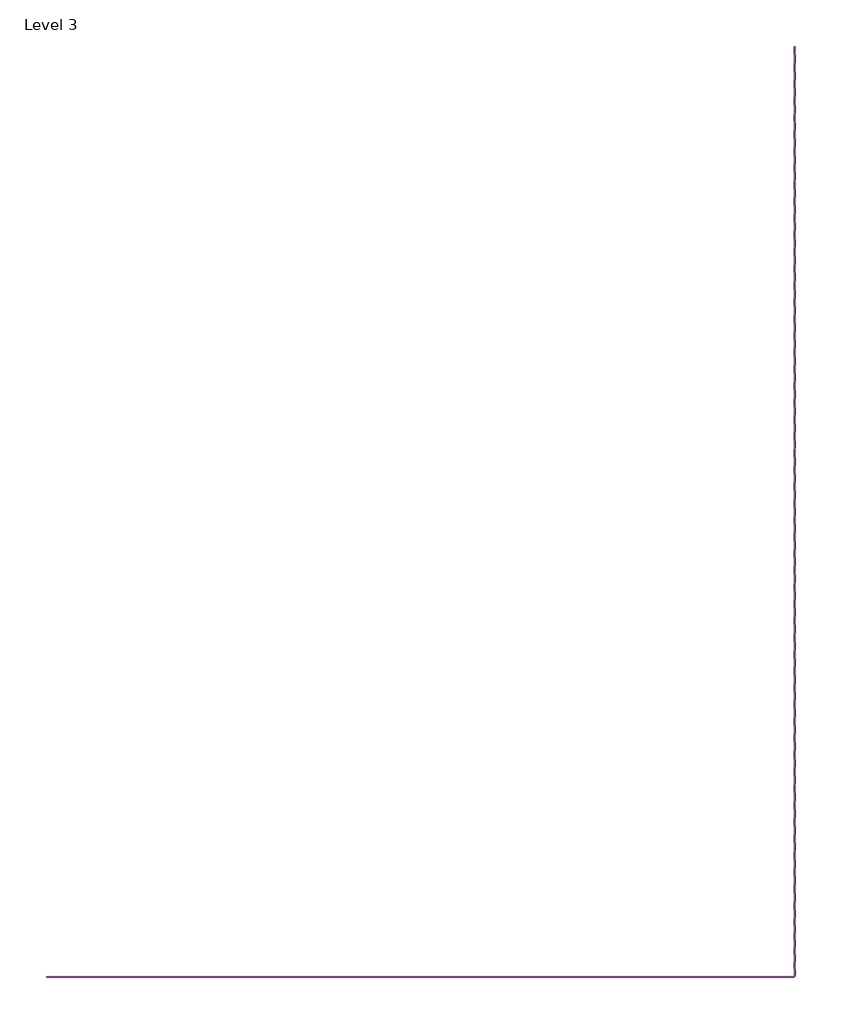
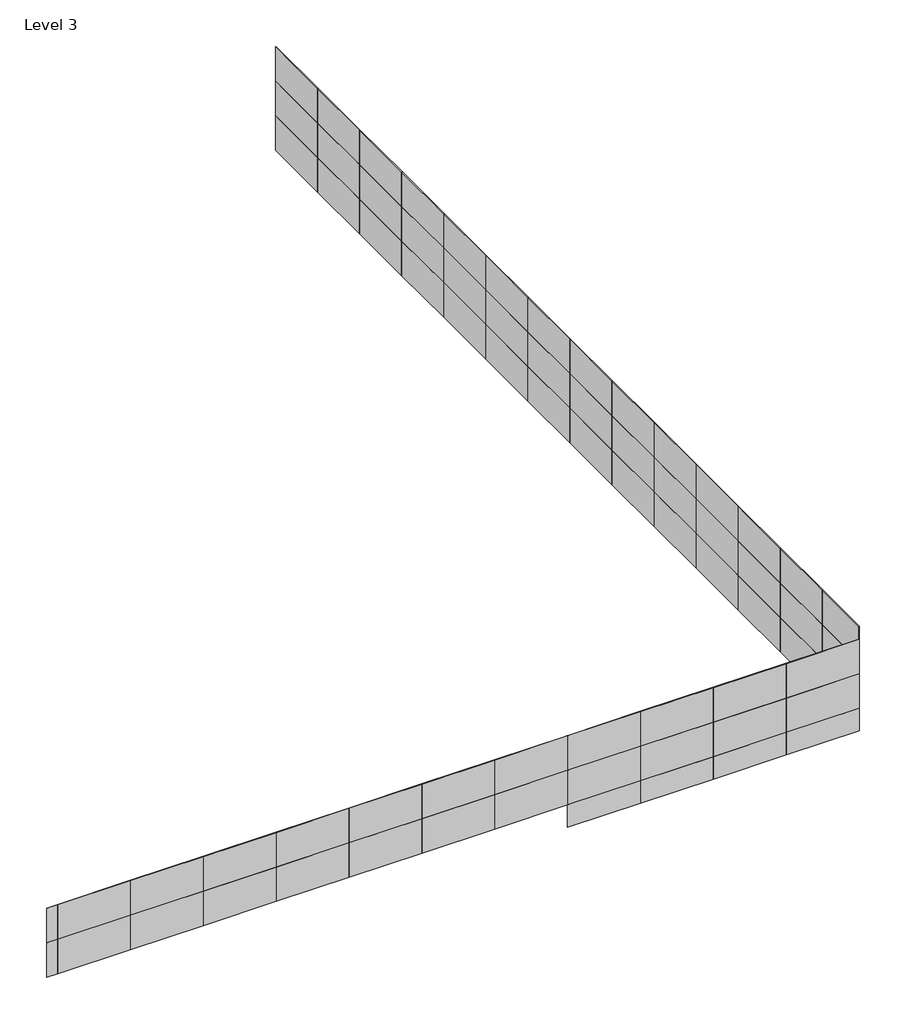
# One storey: 70 plates.
"""IFC4 building model written with IfcOpenShell, lengths in millimetres."""

import ifcopenshell
import ifcopenshell.guid

model = None  # the IFC model being written
_history = None  # IfcOwnerHistory: only IFC2X3 demands one
_inside = {}  # id of a spatial element -> (the spatial element, [elements in it])
_under = {}  # id of a project, library or spatial element -> (it, [spatial elements below it])
_declared = {}  # id of a project -> (the project, [libraries it declares])
_typed = {}  # id of a type object -> (the type object, [elements of that type])
_made_of = {}  # id of a material, layer set ... -> (it, [elements and type objects made of it])


def new_model(schema):
    """Start an empty IFC model of exactly this schema.

    Asked for "IFC4X3", IfcOpenShell would pick the latest addendum, in which some entities
    have other attributes; the version numbers below select the first issue.
    IFC2X3 requires an IfcOwnerHistory on every rooted entity: one is made here for all.
    """
    global model, _history
    if schema == "IFC4X3":
        model = ifcopenshell.file(schema_version=(4, 3, 0, 0))
    else:
        model = ifcopenshell.file(schema=schema)
    _inside.clear()
    _under.clear()
    _declared.clear()
    _typed.clear()
    _made_of.clear()
    _history = None
    if model.schema == "IFC2X3":
        org = make("IfcOrganization", Name="unknown")
        user = make(
            "IfcPersonAndOrganization",
            ThePerson=make("IfcPerson", FamilyName="unknown"),
            TheOrganization=org,
        )
        app = make(
            "IfcApplication",
            ApplicationDeveloper=org,
            Version="unknown",
            ApplicationFullName="unknown",
            ApplicationIdentifier="unknown",
        )
        _history = make(
            "IfcOwnerHistory",
            OwningUser=user,
            OwningApplication=app,
            ChangeAction="ADDED",
            CreationDate=0,
        )
    return model


def make(cls, **values):
    """One entity of the class cls with the attributes given. An attribute that is None is left unset."""
    return model.create_entity(
        cls, **{name: value for name, value in values.items() if value is not None}
    )


def rooted(cls, **values):
    """An entity with a GlobalId (a new one), such as an element, a storey or a relation."""
    return make(cls, GlobalId=ifcopenshell.guid.new(), OwnerHistory=_history, **values)


def si_unit(unit_type, name, prefix=None):
    """IfcSIUnit, for example si_unit("LENGTHUNIT", "METRE", prefix="MILLI")."""
    return make("IfcSIUnit", UnitType=unit_type, Prefix=prefix, Name=name)


def assignment(units):
    """IfcUnitAssignment: the units of a project."""
    return None if units is None else make("IfcUnitAssignment", Units=units)


def point(xyz):
    """IfcCartesianPoint."""
    return None if xyz is None else make("IfcCartesianPoint", Coordinates=xyz)


def direction(xyz):
    """IfcDirection."""
    return None if xyz is None else make("IfcDirection", DirectionRatios=xyz)


def frame(location, z_axis=None, x_axis=None):
    """IfcAxis2Placement3D, a coordinate frame: its origin and axes. An axis left out is left unset."""
    return make(
        "IfcAxis2Placement3D",
        Location=point(location),
        Axis=direction(z_axis),
        RefDirection=direction(x_axis),
    )


def origin():
    """The frame at (0, 0, 0) with its axes left unset."""
    return frame((0.0, 0.0, 0.0))


def origin_with_axes():
    """The frame at (0, 0, 0) with the z axis (0, 0, 1) and the x axis (1, 0, 0) written out."""
    return frame((0.0, 0.0, 0.0), z_axis=(0.0, 0.0, 1.0), x_axis=(1.0, 0.0, 0.0))


def place(relative_to, where):
    """IfcLocalPlacement: puts the frame where relative to a parent placement (None: the world)."""
    return make(
        "IfcLocalPlacement", PlacementRelTo=relative_to, RelativePlacement=where
    )


def context(
    kind, dimensions, precision=None, world=None, true_north=None, identifier=None
):
    """IfcGeometricRepresentationContext, for example the 3D "Model" context."""
    return make(
        "IfcGeometricRepresentationContext",
        ContextIdentifier=identifier,
        ContextType=kind,
        CoordinateSpaceDimension=dimensions,
        Precision=precision,
        WorldCoordinateSystem=world,
        TrueNorth=true_north,
    )


def project(units=None, contexts=None):
    """IfcProject with its units and contexts."""
    return rooted(
        "IfcProject",
        Name="project",
        RepresentationContexts=contexts,
        UnitsInContext=assignment(units),
    )


def spatial(cls, under=None, at=None, **own):
    """A site, building, storey or space (cls), placed at a placement, below another one or the project."""
    s = rooted(cls, ObjectPlacement=at, **own)
    if under is not None:
        _under.setdefault(under.id(), (under, []))[1].append(s)
    return s


def polyline(points):
    """IfcPolyline through the points."""
    return make("IfcPolyline", Points=[point(p) for p in points])


def outline(outer, holes=None, kind="AREA"):
    """IfcArbitraryClosedProfileDef: a profile drawn as a closed curve; with holes, ...WithVoids."""
    if holes is None:
        return make("IfcArbitraryClosedProfileDef", ProfileType=kind, OuterCurve=outer)
    return make(
        "IfcArbitraryProfileDefWithVoids",
        ProfileType=kind,
        OuterCurve=outer,
        InnerCurves=holes,
    )


def extrude(swept, where, along, depth):
    """IfcExtrudedAreaSolid: the profile swept, set in the frame where, extruded along a direction by depth."""
    return make(
        "IfcExtrudedAreaSolid",
        SweptArea=swept,
        Position=where,
        ExtrudedDirection=direction(along),
        Depth=depth,
    )


def shape(context_of_items, identifier, shape_type, items):
    """IfcShapeRepresentation: the items that make up one representation, for example the "Body"."""
    return make(
        "IfcShapeRepresentation",
        ContextOfItems=context_of_items,
        RepresentationIdentifier=identifier,
        RepresentationType=shape_type,
        Items=items,
    )


def source(mapping_origin, context_of_items, identifier, shape_type, items):
    """IfcRepresentationMap: a shape defined once, which mapped items show again and again."""
    return make(
        "IfcRepresentationMap",
        MappingOrigin=mapping_origin,
        MappedRepresentation=shape(context_of_items, identifier, shape_type, items),
    )


def transform(
    local_origin,
    x_axis=None,
    y_axis=None,
    z_axis=None,
    scale=None,
    scale2=None,
    scale3=None,
    uniform=True,
):
    """IfcCartesianTransformationOperator3D, or its non-uniform kind. x_axis, y_axis, z_axis: its Axis1, 2, 3."""
    if uniform:
        return make(
            "IfcCartesianTransformationOperator3D",
            Axis1=direction(x_axis),
            Axis2=direction(y_axis),
            LocalOrigin=point(local_origin),
            Scale=scale,
            Axis3=direction(z_axis),
        )
    return make(
        "IfcCartesianTransformationOperator3DnonUniform",
        Axis1=direction(x_axis),
        Axis2=direction(y_axis),
        LocalOrigin=point(local_origin),
        Scale=scale,
        Axis3=direction(z_axis),
        Scale2=scale2,
        Scale3=scale3,
    )


def mapped(mapping_source, mapping_target):
    """IfcMappedItem: shows the shape of a source again, moved by a transform."""
    return make(
        "IfcMappedItem", MappingSource=mapping_source, MappingTarget=mapping_target
    )


def made_of(thing, what):
    """Note that an element or type object is made of a material, layer set ...; save() writes the relation."""
    if what is not None:
        _made_of.setdefault(what.id(), (what, []))[1].append(thing)
    return thing


def element(
    cls,
    number,
    at=None,
    inside=None,
    cuts=None,
    type_object=None,
    material=None,
    context=None,
    identifier="Body",
    shape_type=None,
    held_by="IfcProductDefinitionShape",
    body=None,
    shapes=None,
    **own,
):
    """One element of the class cls, such as IfcWall. Its Tag is "e" and its number.

    at: its placement. inside: the storey or other place that contains it. cuts: it is an
    opening in that element (IfcRelVoidsElement). A single representation is given by context,
    identifier, shape_type and body (its items); several are given by shapes. held_by: the class
    of the entity that holds the representations. save() writes the other relations.
    """
    e = rooted(cls, Tag="e%d" % number, ObjectPlacement=at, **own)
    if body is not None:
        shapes = [shape(context, identifier, shape_type, body)]
    if shapes is not None:
        e.Representation = make(held_by, Representations=shapes)
    if inside is not None:
        _inside.setdefault(inside.id(), (inside, []))[1].append(e)
    if cuts is not None:
        rooted(
            "IfcRelVoidsElement", RelatingBuildingElement=cuts, RelatedOpeningElement=e
        )
    if type_object is not None:
        _typed.setdefault(type_object.id(), (type_object, []))[1].append(e)
    return made_of(e, material)


def aggregate(whole, parts):
    """IfcRelAggregates: a whole, such as a stair, and the parts it consists of."""
    return rooted("IfcRelAggregates", RelatingObject=whole, RelatedObjects=parts)


def save(model, path):
    """Write the relations noted so far, then the file.

    IfcRelAggregates (storeys below a building ...), IfcRelContainedInSpatialStructure (elements
    in a storey), IfcRelDefinesByType, IfcRelAssociatesMaterial and IfcRelDeclares: one each for
    every whole, place, type object, material and project.
    """
    for whole, parts in _under.values():
        aggregate(whole, parts)
    for where, things in _inside.values():
        rooted(
            "IfcRelContainedInSpatialStructure",
            RelatedElements=things,
            RelatingStructure=where,
        )
    for kind, things in _typed.values():
        rooted("IfcRelDefinesByType", RelatedObjects=things, RelatingType=kind)
    for what, things in _made_of.values():
        rooted("IfcRelAssociatesMaterial", RelatedObjects=things, RelatingMaterial=what)
    for by, libraries in _declared.values():
        rooted("IfcRelDeclares", RelatingContext=by, RelatedDefinitions=libraries)
    model.write(path)


def system_panel_glazed_0faff7bc(model_context):
    return source(origin(), model_context, "Body", "SweptSolid", [
        extrude(outline(polyline([(1524.0, 19.05), (-1524.0, 19.05), (-1524.0, 44.45), (1524.0, 44.45), (1524.0, 19.05)])), origin_with_axes(), (0.0, 0.0, 1.0), 1524.0),
    ])


def system_panel_glazed_3beef6a9(model_context):
    return source(origin(), model_context, "Body", "SweptSolid", [
        extrude(outline(polyline([(222.6119514, 19.05), (-222.6119514, 19.05), (-222.6119514, 44.45), (222.6119514, 44.45), (222.6119514, 19.05)])), origin_with_axes(), (0.0, 0.0, 1.0), 1524.0),
    ])


def system_panel_glazed_005117af(model_context):
    return source(origin(), model_context, "Body", "SweptSolid", [
        extrude(outline(polyline([(1524.0, 19.05), (-1524.0, 19.05), (-1524.0, 44.45), (1524.0, 44.45), (1524.0, 19.05)])), origin_with_axes(), (0.0, 0.0, 1.0), 990.9101454),
    ])


def system_panel_glazed_27cb410f(model_context):
    return source(origin(), model_context, "Body", "SweptSolid", [
        extrude(outline(polyline([(1319.7377931, 19.05), (-1319.7377931, 19.05), (-1319.7377931, 44.45), (1319.7377931, 44.45), (1319.7377931, 19.05)])), origin_with_axes(), (0.0, 0.0, 1.0), 1524.0),
    ])


model = new_model("IFC4")

# Units and contexts
model_context = context("Model", 3, world=origin())
ifc_project = project(units=[si_unit("LENGTHUNIT", "METRE", prefix="MILLI")], contexts=[model_context])

# Site, building, storey
site = spatial("IfcSite", under=ifc_project)
building = spatial("IfcBuilding", under=site)
storey = spatial("IfcBuildingStorey", under=building, Name="Level 3", Elevation=6705.6)

# Plates
placement = place(None, origin())
system_panel_glazed_shape = system_panel_glazed_0faff7bc(model_context)
element("IfcPlate", 1, ObjectType="System Panel : Glazed", at=placement, inside=storey, context=model_context, shape_type="MappedRepresentation", body=[
    mapped(system_panel_glazed_shape, transform((14868.0832196, -17542.9691989, 7708.4959124), x_axis=(-1.0, 0.0, 0.0), y_axis=(0.0, -1.0, 0.0), z_axis=(0.0, 0.0, 1.0))),
])
element("IfcPlate", 2, ObjectType="System Panel : Glazed", at=placement, inside=storey, context=model_context, shape_type="MappedRepresentation", body=[
    mapped(system_panel_glazed_shape, transform((11820.0832196, -17542.9691989, 7708.4959124), x_axis=(-1.0, 0.0, 0.0), y_axis=(0.0, -1.0, 0.0), z_axis=(0.0, 0.0, 1.0))),
])
element("IfcPlate", 3, ObjectType="System Panel : Glazed", at=placement, inside=storey, context=model_context, shape_type="MappedRepresentation", body=[
    mapped(system_panel_glazed_shape, transform((8772.0832196, -17542.9691989, 7708.4959124), x_axis=(-1.0, 0.0, 0.0), y_axis=(0.0, -1.0, 0.0), z_axis=(0.0, 0.0, 1.0))),
])
element("IfcPlate", 4, ObjectType="System Panel : Glazed", at=placement, inside=storey, context=model_context, shape_type="MappedRepresentation", body=[
    mapped(system_panel_glazed_shape, transform((5724.0832196, -17542.9691989, 7708.4959124), x_axis=(-1.0, 0.0, 0.0), y_axis=(0.0, -1.0, 0.0), z_axis=(0.0, 0.0, 1.0))),
])
element("IfcPlate", 5, ObjectType="System Panel : Glazed", at=placement, inside=storey, context=model_context, shape_type="MappedRepresentation", body=[
    mapped(system_panel_glazed_shape, transform((2676.0832196, -17542.9691989, 7708.4959124), x_axis=(-1.0, 0.0, 0.0), y_axis=(0.0, -1.0, 0.0), z_axis=(0.0, 0.0, 1.0))),
])
element("IfcPlate", 6, ObjectType="System Panel : Glazed", at=placement, inside=storey, context=model_context, shape_type="MappedRepresentation", body=[
    mapped(system_panel_glazed_shape, transform((-371.9167804, -17542.9691989, 7708.4959124), x_axis=(-1.0, 0.0, 0.0), y_axis=(0.0, -1.0, 0.0), z_axis=(0.0, 0.0, 1.0))),
])
element("IfcPlate", 7, ObjectType="System Panel : Glazed", at=placement, inside=storey, context=model_context, shape_type="MappedRepresentation", body=[
    mapped(system_panel_glazed_shape, transform((-3419.9167804, -17542.9691989, 7708.4959124), x_axis=(-1.0, 0.0, 0.0), y_axis=(0.0, -1.0, 0.0), z_axis=(0.0, 0.0, 1.0))),
])
element("IfcPlate", 8, ObjectType="System Panel : Glazed", at=placement, inside=storey, context=model_context, shape_type="MappedRepresentation", body=[
    mapped(system_panel_glazed_shape, transform((-6467.9167804, -17542.9691989, 7708.4959124), x_axis=(-1.0, 0.0, 0.0), y_axis=(0.0, -1.0, 0.0), z_axis=(0.0, 0.0, 1.0))),
])
element("IfcPlate", 9, ObjectType="System Panel : Glazed", at=placement, inside=storey, context=model_context, shape_type="MappedRepresentation", body=[
    mapped(system_panel_glazed_shape, transform((-9515.9167804, -17542.9691989, 7708.4959124), x_axis=(-1.0, 0.0, 0.0), y_axis=(0.0, -1.0, 0.0), z_axis=(0.0, 0.0, 1.0))),
])
element("IfcPlate", 10, ObjectType="System Panel : Glazed", at=placement, inside=storey, context=model_context, shape_type="MappedRepresentation", body=[
    mapped(system_panel_glazed_shape, transform((-12563.9167804, -17542.9691989, 7708.4959124), x_axis=(-1.0, 0.0, 0.0), y_axis=(0.0, -1.0, 0.0), z_axis=(0.0, 0.0, 1.0))),
])
element("IfcPlate", 11, ObjectType="System Panel : Glazed", at=placement, inside=storey, context=model_context, shape_type="MappedRepresentation", body=[
    mapped(system_panel_glazed_shape, transform((-15611.9167804, -17542.9691989, 7708.4959124), x_axis=(-1.0, 0.0, 0.0), y_axis=(0.0, -1.0, 0.0), z_axis=(0.0, 0.0, 1.0))),
])
element("IfcPlate", 12, ObjectType="System Panel : Glazed", at=placement, inside=storey, context=model_context, shape_type="MappedRepresentation", body=[
    mapped(system_panel_glazed_shape, transform((14868.0832196, -17542.9691989, 9232.4959124), x_axis=(-1.0, 0.0, 0.0), y_axis=(0.0, -1.0, 0.0), z_axis=(0.0, 0.0, 1.0))),
])
element("IfcPlate", 13, ObjectType="System Panel : Glazed", at=placement, inside=storey, context=model_context, shape_type="MappedRepresentation", body=[
    mapped(system_panel_glazed_shape, transform((11820.0832196, -17542.9691989, 9232.4959124), x_axis=(-1.0, 0.0, 0.0), y_axis=(0.0, -1.0, 0.0), z_axis=(0.0, 0.0, 1.0))),
])
element("IfcPlate", 14, ObjectType="System Panel : Glazed", at=placement, inside=storey, context=model_context, shape_type="MappedRepresentation", body=[
    mapped(system_panel_glazed_shape, transform((8772.0832196, -17542.9691989, 9232.4959124), x_axis=(-1.0, 0.0, 0.0), y_axis=(0.0, -1.0, 0.0), z_axis=(0.0, 0.0, 1.0))),
])
element("IfcPlate", 15, ObjectType="System Panel : Glazed", at=placement, inside=storey, context=model_context, shape_type="MappedRepresentation", body=[
    mapped(system_panel_glazed_shape, transform((5724.0832196, -17542.9691989, 9232.4959124), x_axis=(-1.0, 0.0, 0.0), y_axis=(0.0, -1.0, 0.0), z_axis=(0.0, 0.0, 1.0))),
])
element("IfcPlate", 16, ObjectType="System Panel : Glazed", at=placement, inside=storey, context=model_context, shape_type="MappedRepresentation", body=[
    mapped(system_panel_glazed_shape, transform((2676.0832196, -17542.9691989, 9232.4959124), x_axis=(-1.0, 0.0, 0.0), y_axis=(0.0, -1.0, 0.0), z_axis=(0.0, 0.0, 1.0))),
])
element("IfcPlate", 17, ObjectType="System Panel : Glazed", at=placement, inside=storey, context=model_context, shape_type="MappedRepresentation", body=[
    mapped(system_panel_glazed_shape, transform((-371.9167804, -17542.9691989, 9232.4959124), x_axis=(-1.0, 0.0, 0.0), y_axis=(0.0, -1.0, 0.0), z_axis=(0.0, 0.0, 1.0))),
])
element("IfcPlate", 18, ObjectType="System Panel : Glazed", at=placement, inside=storey, context=model_context, shape_type="MappedRepresentation", body=[
    mapped(system_panel_glazed_shape, transform((-3419.9167804, -17542.9691989, 9232.4959124), x_axis=(-1.0, 0.0, 0.0), y_axis=(0.0, -1.0, 0.0), z_axis=(0.0, 0.0, 1.0))),
])
element("IfcPlate", 19, ObjectType="System Panel : Glazed", at=placement, inside=storey, context=model_context, shape_type="MappedRepresentation", body=[
    mapped(system_panel_glazed_shape, transform((-6467.9167804, -17542.9691989, 9232.4959124), x_axis=(-1.0, 0.0, 0.0), y_axis=(0.0, -1.0, 0.0), z_axis=(0.0, 0.0, 1.0))),
])
element("IfcPlate", 20, ObjectType="System Panel : Glazed", at=placement, inside=storey, context=model_context, shape_type="MappedRepresentation", body=[
    mapped(system_panel_glazed_shape, transform((-9515.9167804, -17542.9691989, 9232.4959124), x_axis=(-1.0, 0.0, 0.0), y_axis=(0.0, -1.0, 0.0), z_axis=(0.0, 0.0, 1.0))),
])
element("IfcPlate", 21, ObjectType="System Panel : Glazed", at=placement, inside=storey, context=model_context, shape_type="MappedRepresentation", body=[
    mapped(system_panel_glazed_shape, transform((-12563.9167804, -17542.9691989, 9232.4959124), x_axis=(-1.0, 0.0, 0.0), y_axis=(0.0, -1.0, 0.0), z_axis=(0.0, 0.0, 1.0))),
])
element("IfcPlate", 22, ObjectType="System Panel : Glazed", at=placement, inside=storey, context=model_context, shape_type="MappedRepresentation", body=[
    mapped(system_panel_glazed_shape, transform((-15611.9167804, -17542.9691989, 9232.4959124), x_axis=(-1.0, 0.0, 0.0), y_axis=(0.0, -1.0, 0.0), z_axis=(0.0, 0.0, 1.0))),
])
element("IfcPlate", 23, ObjectType="System Panel : Glazed", at=placement, inside=storey, context=model_context, shape_type="MappedRepresentation", body=[
    mapped(system_panel_glazed_shape, transform((16392.0832196, 23196.5063873, 6717.585767), x_axis=(0.0, -1.0, 0.0), y_axis=(1.0, 0.0, 0.0), z_axis=(0.0, 0.0, 1.0))),
])
element("IfcPlate", 24, ObjectType="System Panel : Glazed", at=placement, inside=storey, context=model_context, shape_type="MappedRepresentation", body=[
    mapped(system_panel_glazed_shape, transform((16392.0832196, 20148.5063873, 6717.585767), x_axis=(0.0, -1.0, 0.0), y_axis=(1.0, 0.0, 0.0), z_axis=(0.0, 0.0, 1.0))),
])
element("IfcPlate", 25, ObjectType="System Panel : Glazed", at=placement, inside=storey, context=model_context, shape_type="MappedRepresentation", body=[
    mapped(system_panel_glazed_shape, transform((16392.0832196, 17100.5063873, 6717.585767), x_axis=(0.0, -1.0, 0.0), y_axis=(1.0, 0.0, 0.0), z_axis=(0.0, 0.0, 1.0))),
])
element("IfcPlate", 26, ObjectType="System Panel : Glazed", at=placement, inside=storey, context=model_context, shape_type="MappedRepresentation", body=[
    mapped(system_panel_glazed_shape, transform((16392.0832196, 14052.5063873, 6717.585767), x_axis=(0.0, -1.0, 0.0), y_axis=(1.0, 0.0, 0.0), z_axis=(0.0, 0.0, 1.0))),
])
element("IfcPlate", 27, ObjectType="System Panel : Glazed", at=placement, inside=storey, context=model_context, shape_type="MappedRepresentation", body=[
    mapped(system_panel_glazed_shape, transform((16392.0832196, 11004.5063873, 6717.585767), x_axis=(0.0, -1.0, 0.0), y_axis=(1.0, 0.0, 0.0), z_axis=(0.0, 0.0, 1.0))),
])
element("IfcPlate", 28, ObjectType="System Panel : Glazed", at=placement, inside=storey, context=model_context, shape_type="MappedRepresentation", body=[
    mapped(system_panel_glazed_shape, transform((16392.0832196, 7956.5063873, 6717.585767), x_axis=(0.0, -1.0, 0.0), y_axis=(1.0, 0.0, 0.0), z_axis=(0.0, 0.0, 1.0))),
])
element("IfcPlate", 29, ObjectType="System Panel : Glazed", at=placement, inside=storey, context=model_context, shape_type="MappedRepresentation", body=[
    mapped(system_panel_glazed_shape, transform((16392.0832196, 4908.5063873, 6717.585767), x_axis=(0.0, -1.0, 0.0), y_axis=(1.0, 0.0, 0.0), z_axis=(0.0, 0.0, 1.0))),
])
element("IfcPlate", 30, ObjectType="System Panel : Glazed", at=placement, inside=storey, context=model_context, shape_type="MappedRepresentation", body=[
    mapped(system_panel_glazed_shape, transform((16392.0832196, 1860.5063873, 6717.585767), x_axis=(0.0, -1.0, 0.0), y_axis=(1.0, 0.0, 0.0), z_axis=(0.0, 0.0, 1.0))),
])
element("IfcPlate", 31, ObjectType="System Panel : Glazed", at=placement, inside=storey, context=model_context, shape_type="MappedRepresentation", body=[
    mapped(system_panel_glazed_shape, transform((16392.0832196, -1187.4936127, 6717.585767), x_axis=(0.0, -1.0, 0.0), y_axis=(1.0, 0.0, 0.0), z_axis=(0.0, 0.0, 1.0))),
])
element("IfcPlate", 32, ObjectType="System Panel : Glazed", at=placement, inside=storey, context=model_context, shape_type="MappedRepresentation", body=[
    mapped(system_panel_glazed_shape, transform((16392.0832196, -4235.4936127, 6717.585767), x_axis=(0.0, -1.0, 0.0), y_axis=(1.0, 0.0, 0.0), z_axis=(0.0, 0.0, 1.0))),
])
element("IfcPlate", 33, ObjectType="System Panel : Glazed", at=placement, inside=storey, context=model_context, shape_type="MappedRepresentation", body=[
    mapped(system_panel_glazed_shape, transform((16392.0832196, -7283.4936127, 6717.585767), x_axis=(0.0, -1.0, 0.0), y_axis=(1.0, 0.0, 0.0), z_axis=(0.0, 0.0, 1.0))),
])
element("IfcPlate", 34, ObjectType="System Panel : Glazed", at=placement, inside=storey, context=model_context, shape_type="MappedRepresentation", body=[
    mapped(system_panel_glazed_shape, transform((16392.0832196, -10331.4936127, 6717.585767), x_axis=(0.0, -1.0, 0.0), y_axis=(1.0, 0.0, 0.0), z_axis=(0.0, 0.0, 1.0))),
])
element("IfcPlate", 35, ObjectType="System Panel : Glazed", at=placement, inside=storey, context=model_context, shape_type="MappedRepresentation", body=[
    mapped(system_panel_glazed_shape, transform((16392.0832196, -13379.4936127, 6717.585767), x_axis=(0.0, -1.0, 0.0), y_axis=(1.0, 0.0, 0.0), z_axis=(0.0, 0.0, 1.0))),
])
element("IfcPlate", 36, ObjectType="System Panel : Glazed", at=placement, inside=storey, context=model_context, shape_type="MappedRepresentation", body=[
    mapped(system_panel_glazed_shape, transform((16392.0832196, 23196.5063873, 8241.585767), x_axis=(0.0, -1.0, 0.0), y_axis=(1.0, 0.0, 0.0), z_axis=(0.0, 0.0, 1.0))),
])
element("IfcPlate", 37, ObjectType="System Panel : Glazed", at=placement, inside=storey, context=model_context, shape_type="MappedRepresentation", body=[
    mapped(system_panel_glazed_shape, transform((16392.0832196, 20148.5063873, 8241.585767), x_axis=(0.0, -1.0, 0.0), y_axis=(1.0, 0.0, 0.0), z_axis=(0.0, 0.0, 1.0))),
])
element("IfcPlate", 38, ObjectType="System Panel : Glazed", at=placement, inside=storey, context=model_context, shape_type="MappedRepresentation", body=[
    mapped(system_panel_glazed_shape, transform((16392.0832196, 17100.5063873, 8241.585767), x_axis=(0.0, -1.0, 0.0), y_axis=(1.0, 0.0, 0.0), z_axis=(0.0, 0.0, 1.0))),
])
element("IfcPlate", 39, ObjectType="System Panel : Glazed", at=placement, inside=storey, context=model_context, shape_type="MappedRepresentation", body=[
    mapped(system_panel_glazed_shape, transform((16392.0832196, 14052.5063873, 8241.585767), x_axis=(0.0, -1.0, 0.0), y_axis=(1.0, 0.0, 0.0), z_axis=(0.0, 0.0, 1.0))),
])
element("IfcPlate", 40, ObjectType="System Panel : Glazed", at=placement, inside=storey, context=model_context, shape_type="MappedRepresentation", body=[
    mapped(system_panel_glazed_shape, transform((16392.0832196, 11004.5063873, 8241.585767), x_axis=(0.0, -1.0, 0.0), y_axis=(1.0, 0.0, 0.0), z_axis=(0.0, 0.0, 1.0))),
])
element("IfcPlate", 41, ObjectType="System Panel : Glazed", at=placement, inside=storey, context=model_context, shape_type="MappedRepresentation", body=[
    mapped(system_panel_glazed_shape, transform((16392.0832196, 7956.5063873, 8241.585767), x_axis=(0.0, -1.0, 0.0), y_axis=(1.0, 0.0, 0.0), z_axis=(0.0, 0.0, 1.0))),
])
element("IfcPlate", 42, ObjectType="System Panel : Glazed", at=placement, inside=storey, context=model_context, shape_type="MappedRepresentation", body=[
    mapped(system_panel_glazed_shape, transform((16392.0832196, 4908.5063873, 8241.585767), x_axis=(0.0, -1.0, 0.0), y_axis=(1.0, 0.0, 0.0), z_axis=(0.0, 0.0, 1.0))),
])
element("IfcPlate", 43, ObjectType="System Panel : Glazed", at=placement, inside=storey, context=model_context, shape_type="MappedRepresentation", body=[
    mapped(system_panel_glazed_shape, transform((16392.0832196, 1860.5063873, 8241.585767), x_axis=(0.0, -1.0, 0.0), y_axis=(1.0, 0.0, 0.0), z_axis=(0.0, 0.0, 1.0))),
])
element("IfcPlate", 44, ObjectType="System Panel : Glazed", at=placement, inside=storey, context=model_context, shape_type="MappedRepresentation", body=[
    mapped(system_panel_glazed_shape, transform((16392.0832196, -1187.4936127, 8241.585767), x_axis=(0.0, -1.0, 0.0), y_axis=(1.0, 0.0, 0.0), z_axis=(0.0, 0.0, 1.0))),
])
element("IfcPlate", 45, ObjectType="System Panel : Glazed", at=placement, inside=storey, context=model_context, shape_type="MappedRepresentation", body=[
    mapped(system_panel_glazed_shape, transform((16392.0832196, -4235.4936127, 8241.585767), x_axis=(0.0, -1.0, 0.0), y_axis=(1.0, 0.0, 0.0), z_axis=(0.0, 0.0, 1.0))),
])
element("IfcPlate", 46, ObjectType="System Panel : Glazed", at=placement, inside=storey, context=model_context, shape_type="MappedRepresentation", body=[
    mapped(system_panel_glazed_shape, transform((16392.0832196, -7283.4936127, 8241.585767), x_axis=(0.0, -1.0, 0.0), y_axis=(1.0, 0.0, 0.0), z_axis=(0.0, 0.0, 1.0))),
])
element("IfcPlate", 47, ObjectType="System Panel : Glazed", at=placement, inside=storey, context=model_context, shape_type="MappedRepresentation", body=[
    mapped(system_panel_glazed_shape, transform((16392.0832196, -10331.4936127, 8241.585767), x_axis=(0.0, -1.0, 0.0), y_axis=(1.0, 0.0, 0.0), z_axis=(0.0, 0.0, 1.0))),
])
element("IfcPlate", 48, ObjectType="System Panel : Glazed", at=placement, inside=storey, context=model_context, shape_type="MappedRepresentation", body=[
    mapped(system_panel_glazed_shape, transform((16392.0832196, -13379.4936127, 8241.585767), x_axis=(0.0, -1.0, 0.0), y_axis=(1.0, 0.0, 0.0), z_axis=(0.0, 0.0, 1.0))),
])
element("IfcPlate", 49, ObjectType="System Panel : Glazed", at=placement, inside=storey, context=model_context, shape_type="MappedRepresentation", body=[
    mapped(system_panel_glazed_shape, transform((16392.0832196, 23196.5063873, 9765.585767), x_axis=(0.0, -1.0, 0.0), y_axis=(1.0, 0.0, 0.0), z_axis=(0.0, 0.0, 1.0))),
])
element("IfcPlate", 50, ObjectType="System Panel : Glazed", at=placement, inside=storey, context=model_context, shape_type="MappedRepresentation", body=[
    mapped(system_panel_glazed_shape, transform((16392.0832196, 20148.5063873, 9765.585767), x_axis=(0.0, -1.0, 0.0), y_axis=(1.0, 0.0, 0.0), z_axis=(0.0, 0.0, 1.0))),
])
element("IfcPlate", 51, ObjectType="System Panel : Glazed", at=placement, inside=storey, context=model_context, shape_type="MappedRepresentation", body=[
    mapped(system_panel_glazed_shape, transform((16392.0832196, 17100.5063873, 9765.585767), x_axis=(0.0, -1.0, 0.0), y_axis=(1.0, 0.0, 0.0), z_axis=(0.0, 0.0, 1.0))),
])
element("IfcPlate", 52, ObjectType="System Panel : Glazed", at=placement, inside=storey, context=model_context, shape_type="MappedRepresentation", body=[
    mapped(system_panel_glazed_shape, transform((16392.0832196, 14052.5063873, 9765.585767), x_axis=(0.0, -1.0, 0.0), y_axis=(1.0, 0.0, 0.0), z_axis=(0.0, 0.0, 1.0))),
])
element("IfcPlate", 53, ObjectType="System Panel : Glazed", at=placement, inside=storey, context=model_context, shape_type="MappedRepresentation", body=[
    mapped(system_panel_glazed_shape, transform((16392.0832196, 11004.5063873, 9765.585767), x_axis=(0.0, -1.0, 0.0), y_axis=(1.0, 0.0, 0.0), z_axis=(0.0, 0.0, 1.0))),
])
element("IfcPlate", 54, ObjectType="System Panel : Glazed", at=placement, inside=storey, context=model_context, shape_type="MappedRepresentation", body=[
    mapped(system_panel_glazed_shape, transform((16392.0832196, 7956.5063873, 9765.585767), x_axis=(0.0, -1.0, 0.0), y_axis=(1.0, 0.0, 0.0), z_axis=(0.0, 0.0, 1.0))),
])
element("IfcPlate", 55, ObjectType="System Panel : Glazed", at=placement, inside=storey, context=model_context, shape_type="MappedRepresentation", body=[
    mapped(system_panel_glazed_shape, transform((16392.0832196, 4908.5063873, 9765.585767), x_axis=(0.0, -1.0, 0.0), y_axis=(1.0, 0.0, 0.0), z_axis=(0.0, 0.0, 1.0))),
])
element("IfcPlate", 56, ObjectType="System Panel : Glazed", at=placement, inside=storey, context=model_context, shape_type="MappedRepresentation", body=[
    mapped(system_panel_glazed_shape, transform((16392.0832196, 1860.5063873, 9765.585767), x_axis=(0.0, -1.0, 0.0), y_axis=(1.0, 0.0, 0.0), z_axis=(0.0, 0.0, 1.0))),
])
element("IfcPlate", 57, ObjectType="System Panel : Glazed", at=placement, inside=storey, context=model_context, shape_type="MappedRepresentation", body=[
    mapped(system_panel_glazed_shape, transform((16392.0832196, -1187.4936127, 9765.585767), x_axis=(0.0, -1.0, 0.0), y_axis=(1.0, 0.0, 0.0), z_axis=(0.0, 0.0, 1.0))),
])
element("IfcPlate", 58, ObjectType="System Panel : Glazed", at=placement, inside=storey, context=model_context, shape_type="MappedRepresentation", body=[
    mapped(system_panel_glazed_shape, transform((16392.0832196, -4235.4936127, 9765.585767), x_axis=(0.0, -1.0, 0.0), y_axis=(1.0, 0.0, 0.0), z_axis=(0.0, 0.0, 1.0))),
])
element("IfcPlate", 59, ObjectType="System Panel : Glazed", at=placement, inside=storey, context=model_context, shape_type="MappedRepresentation", body=[
    mapped(system_panel_glazed_shape, transform((16392.0832196, -7283.4936127, 9765.585767), x_axis=(0.0, -1.0, 0.0), y_axis=(1.0, 0.0, 0.0), z_axis=(0.0, 0.0, 1.0))),
])
element("IfcPlate", 60, ObjectType="System Panel : Glazed", at=placement, inside=storey, context=model_context, shape_type="MappedRepresentation", body=[
    mapped(system_panel_glazed_shape, transform((16392.0832196, -10331.4936127, 9765.585767), x_axis=(0.0, -1.0, 0.0), y_axis=(1.0, 0.0, 0.0), z_axis=(0.0, 0.0, 1.0))),
])
element("IfcPlate", 61, ObjectType="System Panel : Glazed", at=placement, inside=storey, context=model_context, shape_type="MappedRepresentation", body=[
    mapped(system_panel_glazed_shape, transform((16392.0832196, -13379.4936127, 9765.585767), x_axis=(0.0, -1.0, 0.0), y_axis=(1.0, 0.0, 0.0), z_axis=(0.0, 0.0, 1.0))),
])
system_panel_glazed_2_shape = system_panel_glazed_3beef6a9(model_context)
element("IfcPlate", 62, ObjectType="System Panel : Glazed", at=placement, inside=storey, context=model_context, shape_type="MappedRepresentation", body=[
    mapped(system_panel_glazed_2_shape, transform((-17358.5287318, -17542.9691989, 7708.4959124), x_axis=(-1.0, 0.0, 0.0), y_axis=(0.0, -1.0, 0.0), z_axis=(0.0, 0.0, 1.0))),
])
element("IfcPlate", 63, ObjectType="System Panel : Glazed", at=placement, inside=storey, context=model_context, shape_type="MappedRepresentation", body=[
    mapped(system_panel_glazed_2_shape, transform((-17358.5287318, -17542.9691989, 9232.4959124), x_axis=(-1.0, 0.0, 0.0), y_axis=(0.0, -1.0, 0.0), z_axis=(0.0, 0.0, 1.0))),
])
system_panel_glazed_3_shape = system_panel_glazed_005117af(model_context)
element("IfcPlate", 64, ObjectType="System Panel : Glazed", at=placement, inside=storey, context=model_context, shape_type="MappedRepresentation", body=[
    mapped(system_panel_glazed_3_shape, transform((14868.0832196, -17542.9691989, 6717.585767), x_axis=(-1.0, 0.0, 0.0), y_axis=(0.0, -1.0, 0.0), z_axis=(0.0, 0.0, 1.0))),
])
element("IfcPlate", 65, ObjectType="System Panel : Glazed", at=placement, inside=storey, context=model_context, shape_type="MappedRepresentation", body=[
    mapped(system_panel_glazed_3_shape, transform((11820.0832196, -17542.9691989, 6717.585767), x_axis=(-1.0, 0.0, 0.0), y_axis=(0.0, -1.0, 0.0), z_axis=(0.0, 0.0, 1.0))),
])
element("IfcPlate", 66, ObjectType="System Panel : Glazed", at=placement, inside=storey, context=model_context, shape_type="MappedRepresentation", body=[
    mapped(system_panel_glazed_3_shape, transform((8772.0832196, -17542.9691989, 6717.585767), x_axis=(-1.0, 0.0, 0.0), y_axis=(0.0, -1.0, 0.0), z_axis=(0.0, 0.0, 1.0))),
])
element("IfcPlate", 67, ObjectType="System Panel : Glazed", at=placement, inside=storey, context=model_context, shape_type="MappedRepresentation", body=[
    mapped(system_panel_glazed_3_shape, transform((5724.0832196, -17542.9691989, 6717.585767), x_axis=(-1.0, 0.0, 0.0), y_axis=(0.0, -1.0, 0.0), z_axis=(0.0, 0.0, 1.0))),
])
system_panel_glazed_4_shape = system_panel_glazed_27cb410f(model_context)
element("IfcPlate", 68, ObjectType="System Panel : Glazed", at=placement, inside=storey, context=model_context, shape_type="MappedRepresentation", body=[
    mapped(system_panel_glazed_4_shape, transform((16392.0832196, -16223.2314058, 6717.585767), x_axis=(0.0, -1.0, 0.0), y_axis=(1.0, 0.0, 0.0), z_axis=(0.0, 0.0, 1.0))),
])
element("IfcPlate", 69, ObjectType="System Panel : Glazed", at=placement, inside=storey, context=model_context, shape_type="MappedRepresentation", body=[
    mapped(system_panel_glazed_4_shape, transform((16392.0832196, -16223.2314058, 8241.585767), x_axis=(0.0, -1.0, 0.0), y_axis=(1.0, 0.0, 0.0), z_axis=(0.0, 0.0, 1.0))),
])
element("IfcPlate", 70, ObjectType="System Panel : Glazed", at=placement, inside=storey, context=model_context, shape_type="MappedRepresentation", body=[
    mapped(system_panel_glazed_4_shape, transform((16392.0832196, -16223.2314058, 9765.585767), x_axis=(0.0, -1.0, 0.0), y_axis=(1.0, 0.0, 0.0), z_axis=(0.0, 0.0, 1.0))),
])

save(model, "model.ifc")
